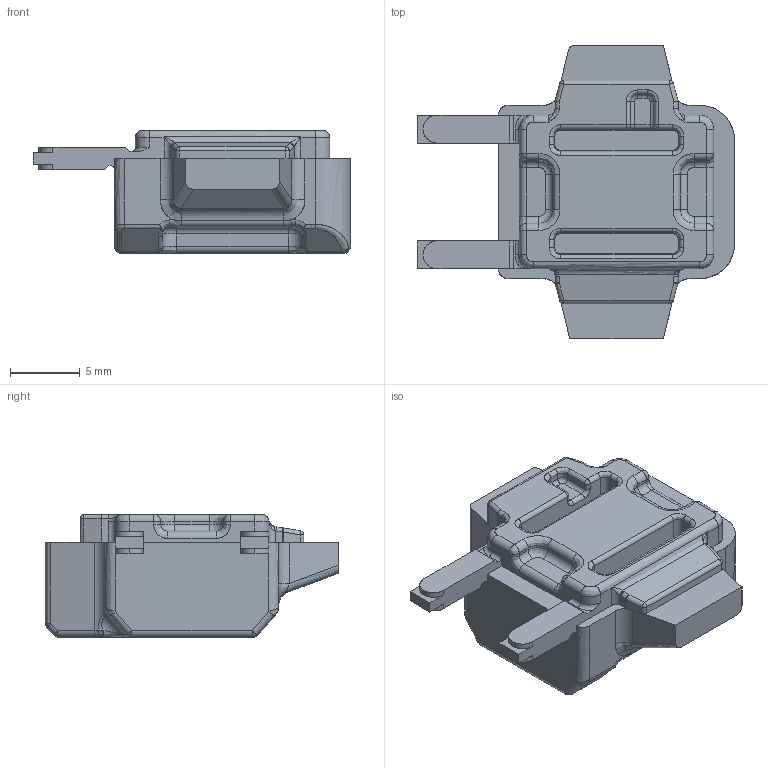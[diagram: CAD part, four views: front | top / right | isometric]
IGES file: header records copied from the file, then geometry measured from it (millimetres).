
Start section: SolidWorks IGES file using analytic representation for surfaces
Global section: file name: N:\Kamikawa_Hisako\★三次元モデル作成依頼\9715\14_9715_000_000_825+T.IGS; native system: SolidWorks 2017; preprocessor: SolidWorks 2017; author: HISAKO.KAMIKAWA.FJ; date: 210922.135428; units: millimetre
Bounding box: 22.7 x 21 x 8.8 mm (x, y, z)
Surface area: 1267.2 mm2 (no closed solid volume)
Topology: 0 solids, 0 shells, 462 faces, 2961 edges, 2932 vertices
Faces by surface type: bspline 262, revolution 200
